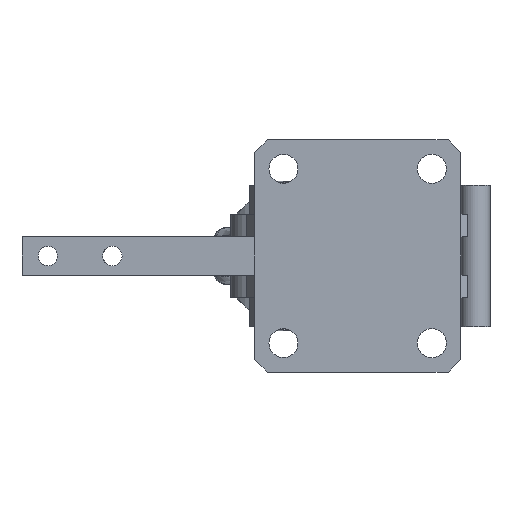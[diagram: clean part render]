
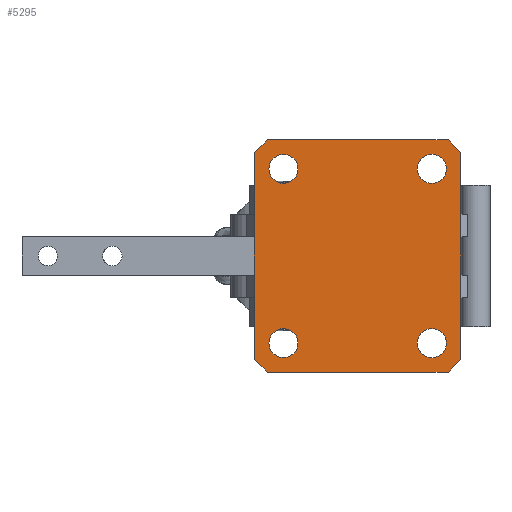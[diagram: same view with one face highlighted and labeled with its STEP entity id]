
A CAD part, front view. The second image highlights one B-rep face of the part: STEP entity #5295.
In plain terms, the highlighted planar face has unit normal (0, -1, 0).
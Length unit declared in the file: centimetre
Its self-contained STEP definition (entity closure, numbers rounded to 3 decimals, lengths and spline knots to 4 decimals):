
#150=FACE_BOUND($,#868,.T.);
#151=FACE_BOUND($,#869,.T.);
#152=FACE_BOUND($,#870,.T.);
#153=FACE_BOUND($,#871,.T.);
#154=FACE_BOUND($,#872,.T.);
#315=PLANE($,#5735);
#868=EDGE_LOOP($,(#3831));
#869=EDGE_LOOP($,(#3832));
#870=EDGE_LOOP($,(#3833));
#871=EDGE_LOOP($,(#3834));
#872=EDGE_LOOP($,(#3835,#3836,#3837,#3838,#3839,#3840,#3841,#3842));
#1359=LINE($,#7969,#1831);
#1360=LINE($,#7971,#1832);
#1361=LINE($,#7973,#1833);
#1362=LINE($,#7975,#1834);
#1363=LINE($,#7977,#1835);
#1364=LINE($,#7979,#1836);
#1365=LINE($,#7981,#1837);
#1366=LINE($,#7982,#1838);
#1831=VECTOR($,#6401,1.);
#1832=VECTOR($,#6402,1.);
#1833=VECTOR($,#6403,1.);
#1834=VECTOR($,#6404,1.);
#1835=VECTOR($,#6405,1.);
#1836=VECTOR($,#6406,1.);
#1837=VECTOR($,#6407,1.);
#1838=VECTOR($,#6408,1.);
#2241=CIRCLE($,#5724,0.45);
#2243=CIRCLE($,#5727,0.45);
#2245=CIRCLE($,#5730,0.45);
#2247=CIRCLE($,#5733,0.45);
#2476=VERTEX_POINT($,#7947);
#2478=VERTEX_POINT($,#7952);
#2480=VERTEX_POINT($,#7957);
#2482=VERTEX_POINT($,#7962);
#2484=VERTEX_POINT($,#7967);
#2485=VERTEX_POINT($,#7968);
#2486=VERTEX_POINT($,#7970);
#2487=VERTEX_POINT($,#7972);
#2488=VERTEX_POINT($,#7974);
#2489=VERTEX_POINT($,#7976);
#2490=VERTEX_POINT($,#7978);
#2491=VERTEX_POINT($,#7980);
#3010=EDGE_CURVE($,#2476,#2476,#2241,.T.);
#3012=EDGE_CURVE($,#2478,#2478,#2243,.T.);
#3014=EDGE_CURVE($,#2480,#2480,#2245,.T.);
#3016=EDGE_CURVE($,#2482,#2482,#2247,.T.);
#3018=EDGE_CURVE($,#2484,#2485,#1359,.T.);
#3019=EDGE_CURVE($,#2486,#2484,#1360,.T.);
#3020=EDGE_CURVE($,#2487,#2486,#1361,.T.);
#3021=EDGE_CURVE($,#2488,#2487,#1362,.T.);
#3022=EDGE_CURVE($,#2489,#2488,#1363,.T.);
#3023=EDGE_CURVE($,#2490,#2489,#1364,.T.);
#3024=EDGE_CURVE($,#2491,#2490,#1365,.T.);
#3025=EDGE_CURVE($,#2485,#2491,#1366,.T.);
#3831=ORIENTED_EDGE($,*,*,#3010,.T.);
#3832=ORIENTED_EDGE($,*,*,#3012,.T.);
#3833=ORIENTED_EDGE($,*,*,#3014,.T.);
#3834=ORIENTED_EDGE($,*,*,#3016,.T.);
#3835=ORIENTED_EDGE($,*,*,#3018,.F.);
#3836=ORIENTED_EDGE($,*,*,#3019,.F.);
#3837=ORIENTED_EDGE($,*,*,#3020,.F.);
#3838=ORIENTED_EDGE($,*,*,#3021,.F.);
#3839=ORIENTED_EDGE($,*,*,#3022,.F.);
#3840=ORIENTED_EDGE($,*,*,#3023,.F.);
#3841=ORIENTED_EDGE($,*,*,#3024,.F.);
#3842=ORIENTED_EDGE($,*,*,#3025,.F.);
#5295=ADVANCED_FACE($,(#150,#151,#152,#153,#154),#315,.F.);
#5724=AXIS2_PLACEMENT_3D($,#7948,#6377,#6378);
#5727=AXIS2_PLACEMENT_3D($,#7953,#6383,#6384);
#5730=AXIS2_PLACEMENT_3D($,#7958,#6389,#6390);
#5733=AXIS2_PLACEMENT_3D($,#7963,#6395,#6396);
#5735=AXIS2_PLACEMENT_3D($,#7966,#6399,#6400);
#6377=DIRECTION('center_axis',(0.,1.,0.));
#6378=DIRECTION('ref_axis',(1.,0.,0.));
#6383=DIRECTION('center_axis',(0.,1.,0.));
#6384=DIRECTION('ref_axis',(1.,0.,0.));
#6389=DIRECTION('center_axis',(0.,1.,0.));
#6390=DIRECTION('ref_axis',(1.,0.,0.));
#6395=DIRECTION('center_axis',(0.,1.,0.));
#6396=DIRECTION('ref_axis',(1.,0.,0.));
#6399=DIRECTION('center_axis',(0.,1.,0.));
#6400=DIRECTION('ref_axis',(0.,0.,1.));
#6401=DIRECTION($,(0.707,0.,-0.707));
#6402=DIRECTION($,(1.,0.,0.));
#6403=DIRECTION($,(0.707,0.,0.707));
#6404=DIRECTION($,(0.,0.,1.));
#6405=DIRECTION($,(-0.707,0.,0.707));
#6406=DIRECTION($,(-1.,0.,0.));
#6407=DIRECTION($,(-0.707,0.,-0.707));
#6408=DIRECTION($,(0.,0.,-1.));
#7947=CARTESIAN_POINT('',(-2.75,-0.45,2.7));
#7948=CARTESIAN_POINT('Origin',(-2.3,-0.45,2.7));
#7952=CARTESIAN_POINT('',(-2.75,-0.45,-2.7));
#7953=CARTESIAN_POINT('Origin',(-2.3,-0.45,-2.7));
#7957=CARTESIAN_POINT('',(1.85,-0.45,2.7));
#7958=CARTESIAN_POINT('Origin',(2.3,-0.45,2.7));
#7962=CARTESIAN_POINT('',(1.85,-0.45,-2.7));
#7963=CARTESIAN_POINT('Origin',(2.3,-0.45,-2.7));
#7966=CARTESIAN_POINT('Origin',(0.,-0.45,0.));
#7967=CARTESIAN_POINT('',(2.8,-0.45,3.6));
#7968=CARTESIAN_POINT('',(3.2,-0.45,3.2));
#7969=CARTESIAN_POINT($,(3.2,-0.45,3.2));
#7970=CARTESIAN_POINT('',(-2.8,-0.45,3.6));
#7971=CARTESIAN_POINT($,(2.8,-0.45,3.6));
#7972=CARTESIAN_POINT('',(-3.2,-0.45,3.2));
#7973=CARTESIAN_POINT($,(-2.8,-0.45,3.6));
#7974=CARTESIAN_POINT('',(-3.2,-0.45,-3.2));
#7975=CARTESIAN_POINT($,(-3.2,-0.45,3.2));
#7976=CARTESIAN_POINT('',(-2.8,-0.45,-3.6));
#7977=CARTESIAN_POINT($,(-3.2,-0.45,-3.2));
#7978=CARTESIAN_POINT('',(2.8,-0.45,-3.6));
#7979=CARTESIAN_POINT($,(-2.8,-0.45,-3.6));
#7980=CARTESIAN_POINT('',(3.2,-0.45,-3.2));
#7981=CARTESIAN_POINT($,(2.8,-0.45,-3.6));
#7982=CARTESIAN_POINT($,(3.2,-0.45,-3.2));
